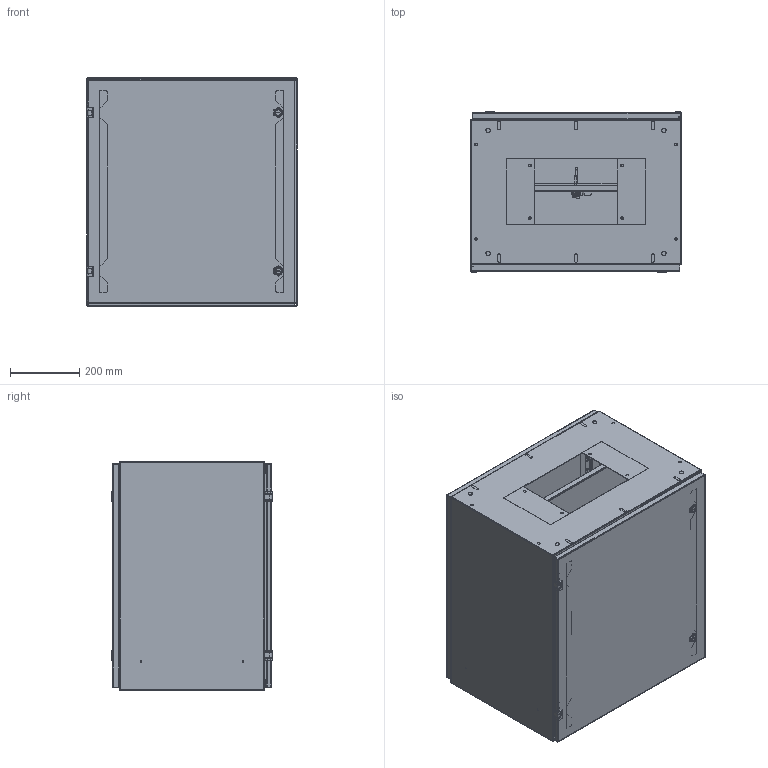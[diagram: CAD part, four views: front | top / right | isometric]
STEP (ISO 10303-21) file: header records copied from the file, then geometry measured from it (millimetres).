
FILE_DESCRIPTION( ( 'Unknown' ), '1' );
FILE_NAME( 'Q:/2000 SERIES/BASE UNITS/WEB DRAWINGS/STEP/2CSBX262418.stp', 'Unknown', ( 'Unknown' ), ( 'Unknown' ), 'XStep 1.0', 'Unknown', ' ' );
FILE_SCHEMA( ( 'CONFIG_CONTROL_DESIGN' ) );
Length unit declared in the file: millimetre
Products named in the file (33): Assem1; Assem2; Assem3; Assem4; Assem5; Assem6; Assem7; 1; 2; 3; 4; 5; 6; 7; 8; 9; 10; 11; 12; 13; 14; 15; 16; 17; 18; 19; 20; 21; 22; 23; 24; 25; 26
Bounding box: 609.6 x 466.49 x 660.4 mm (x, y, z)
Volume: 12250635.6 mm3; surface area: 13467051.9 mm2
Topology: 126 solids, 126 shells, 3412 faces, 8099 edges, 5059 vertices
Faces by surface type: plane 2096, cylinder 1025, bspline 252, torus 27, cone 12
Full cylindrical faces by diameter (mm): 5 x12, 5.537 x18, 5.969 x6, 6 x6, 6.096 x6, 6.35 x60, 7.137 x140, 7.938 x56, 9.804 x9, 9.83 x12, 12.7 x12, 13.335 x6, 15.875 x6, 16.002 x6, 19.5 x6, 19.939 x6, 25.4 x6
Entity records: 26130 total; most frequent: CARTESIAN_POINT 7301, DIRECTION 3540, ORIENTED_EDGE 3428, EDGE_CURVE 1714, AXIS2_PLACEMENT_3D 1206, LINE 1128, VECTOR 1128, VERTEX_POINT 1103
